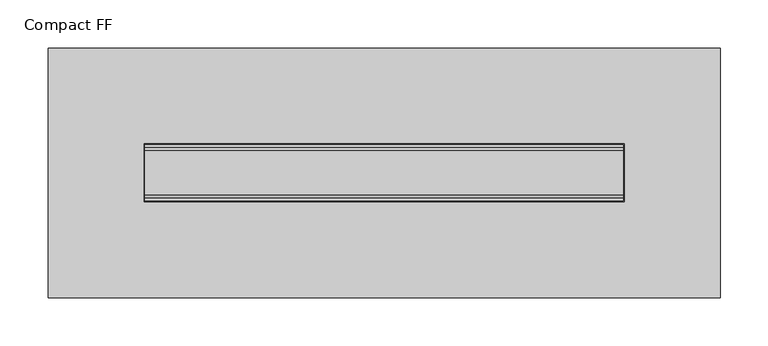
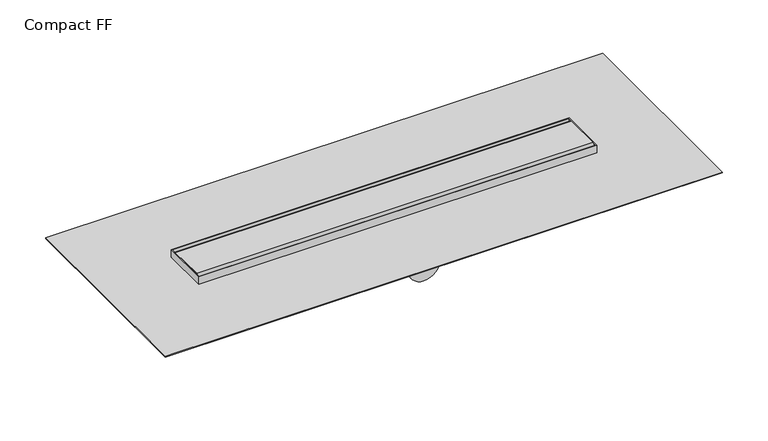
"""IFC4 building model written with IfcOpenShell, lengths in millimetres: sanitary terminal geometry, NLRS_PF_52_UN_Compact_Easydrain : Compact FF."""

from ifc_helpers import new_model, si_unit, point, frame, frame_2d, origin, place, context, project, spatial, polyline, circle_curve, trimmed, segment, composite_curve, outline, extrude, source, transform, mapped, element, save
from ifc_brep_helpers import plane_surface, cylinder_surface, advanced_brep


def compact_ff_39878ad4(model_context):
    return source(origin(), model_context, "Body", "SolidModel", [
        extrude(outline(composite_curve([segment(polyline([(-23.0, 0.0), (23.0, 0.0)]), True, "CONTINUOUS"), segment(trimmed(circle_curve(frame_2d((23.0, -3.0)), 3.0), [point((23.0, 0.0))], [point((26.0, -3.0))], False, "CARTESIAN"), True, "CONTINUOUS"), segment(polyline([(26.0, -3.0), (26.0, -12.0), (-26.0, -12.0), (-26.0, -3.0)]), True, "CONTINUOUS"), segment(trimmed(circle_curve(frame_2d((-23.0, -3.0)), 3.0), [point((-26.0, -3.0))], [point((-23.0, 0.0))], False, "CARTESIAN"), True, "CONTINUOUS")], self_intersect=False)), frame((-249.0, 0.0, 0.0), z_axis=(1.0, 0.0, 0.0), x_axis=(0.0, 1.0, 0.0)), (0.0, 0.0, 1.0), 498.0),
        extrude(outline(composite_curve([segment(trimmed(circle_curve(frame_2d((190.0, 0.0)), 20.0), [point((210.0, 0.0))], [point((170.0, 0.0))], False, "CARTESIAN"), True, "CONTINUOUS"), segment(trimmed(circle_curve(frame_2d((190.0, 0.0)), 20.0), [point((170.0, 0.0))], [point((210.0, 0.0))], False, "CARTESIAN"), True, "CONTINUOUS")], self_intersect=False)), frame((0.0, 0.0, -61.0), z_axis=(0.0, 0.0, 1.0), x_axis=(1.0, 0.0, 0.0)), (0.0, 0.0, 1.0), 43.0),
        extrude(outline(composite_curve([segment(trimmed(circle_curve(frame_2d((-190.0, 0.0)), 20.0), [point((-210.0, 0.0))], [point((-170.0, 0.0))], False, "CARTESIAN"), True, "CONTINUOUS"), segment(trimmed(circle_curve(frame_2d((-190.0, 0.0)), 20.0), [point((-170.0, 0.0))], [point((-210.0, 0.0))], False, "CARTESIAN"), True, "CONTINUOUS")], self_intersect=False)), frame((0.0, 0.0, -61.0), z_axis=(0.0, 0.0, 1.0), x_axis=(1.0, 0.0, 0.0)), (0.0, 0.0, 1.0), 43.0),
        extrude(outline(polyline([(350.0, 130.0), (350.0, -130.0), (-350.0, -130.0), (-350.0, 130.0), (350.0, 130.0)]), holes=[polyline([(250.0, 30.0), (-250.0, 30.0), (-250.0, -30.0), (250.0, -30.0), (250.0, 30.0)])]), frame((0.0, 0.0, -11.0), z_axis=(0.0, 0.0, 1.0), x_axis=(1.0, 0.0, 0.0)), (0.0, 0.0, 1.0), 1.0),
        advanced_brep(
        [(-250.0, -30.0, -18.0), (-110.0, -30.0, -20.0), (-110.0, -30.0, -61.0), (110.0, -30.0, -61.0), (110.0, -30.0, -20.0), (250.0, -30.0, -18.0), (250.0, -30.0, 0.0), (-250.0, -30.0, 0.0), (0.0, -30.0, -18.0), (0.0, -30.0, -58.0), (-250.0, 30.0, -18.0), (-250.0, 30.0, 0.0), (250.0, 30.0, 0.0), (250.0, 30.0, -18.0), (110.0, 30.0, -20.0), (110.0, 30.0, -61.0), (-110.0, 30.0, -61.0), (-110.0, 30.0, -20.0), (-249.0, 29.0, 0.0), (249.0, 29.0, 0.0), (249.0, -29.0, 0.0), (-249.0, -29.0, 0.0), (0.0, -87.0466767, -18.0), (0.0, -87.0466767, -58.0), (249.0, 29.0, -12.0), (-249.0, 29.0, -12.0), (-249.0, -29.0, -12.0), (249.0, -29.0, -12.0)],
        [
            (0, 1),
            (1, 2),
            (2, 3),
            (3, 4),
            (4, 5),
            (5, 6),
            (6, 7),
            (7, 0),
            (8, 9, circle_curve(frame((0.0, -30.0, -38.0), z_axis=(0.0, 1.0, 0.0), x_axis=(0.0, 0.0, -1.0)), 20.0)),
            (9, 8, circle_curve(frame((0.0, -30.0, -38.0), z_axis=(0.0, 1.0, 0.0), x_axis=(0.0, 0.0, -1.0)), 20.0)),
            (10, 11),
            (11, 12),
            (12, 13),
            (13, 14),
            (14, 15),
            (15, 16),
            (16, 17),
            (17, 10),
            (0, 10),
            (17, 1),
            (5, 13),
            (12, 6),
            (11, 7),
            (18, 19),
            (19, 20),
            (20, 21),
            (21, 18),
            (16, 2),
            (15, 3),
            (14, 4),
            (22, 23, circle_curve(frame((0.0, -87.0466767, -38.0), z_axis=(0.0, -1.0, 0.0), x_axis=(0.0, 0.0, -1.0)), 20.0)),
            (23, 22, circle_curve(frame((0.0, -87.0466767, -38.0), z_axis=(0.0, -1.0, 0.0), x_axis=(0.0, 0.0, -1.0)), 20.0)),
            (23, 9),
            (8, 22),
            (24, 25),
            (25, 26),
            (26, 27),
            (27, 24),
            (24, 19),
            (18, 25),
            (21, 26),
            (20, 27),
        ],
        [
            plane_surface(frame((-250.0, -30.0, -18.0), z_axis=(0.0, -1.0, 0.0), x_axis=(0.99989797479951, 0.0, -0.014284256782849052))),
            plane_surface(frame((-250.0, 30.0, -18.0), z_axis=(0.0, 1.0, 0.0), x_axis=(-0.99989797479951, 0.0, 0.014284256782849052))),
            plane_surface(frame((-250.0, -30.0, -18.0), z_axis=(-0.014284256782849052, 0.0, -0.99989797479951), x_axis=(0.0, 1.0, 0.0))),
            plane_surface(frame((250.0, -30.0, -18.0), z_axis=(1.0, 0.0, 0.0), x_axis=(0.0, 1.0, 0.0))),
            plane_surface(frame((250.0, -30.0, 0.0), z_axis=(0.0, 0.0, 1.0), x_axis=(0.0, 1.0, 0.0))),
            plane_surface(frame((-250.0, -30.0, 0.0), z_axis=(-1.0, 0.0, 0.0), x_axis=(0.0, 1.0, 0.0))),
            plane_surface(frame((-110.0, -30.0, -20.0), z_axis=(-1.0, 0.0, 0.0), x_axis=(0.0, 1.0, 0.0))),
            plane_surface(frame((-110.0, -30.0, -61.0), z_axis=(0.0, 0.0, -1.0), x_axis=(0.0, 1.0, 0.0))),
            plane_surface(frame((110.0, -30.0, -61.0), z_axis=(1.0, 0.0, 0.0), x_axis=(0.0, 1.0, 0.0))),
            plane_surface(frame((110.0, -30.0, -20.0), z_axis=(0.01428425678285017, 0.0, -0.99989797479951), x_axis=(0.0, 1.0, 0.0))),
            plane_surface(frame((0.0, -87.0466767, -38.0), z_axis=(0.0, -1.0, 0.0), x_axis=(1.0, 0.0, 0.0))),
            cylinder_surface(frame((0.0, 0.0, -38.0), z_axis=(0.0, 1.0, 0.0), x_axis=(0.0, 0.0, -1.0)), 20.0),
            plane_surface(frame((-249.0, 29.0, -12.0), z_axis=(0.0, 0.0, 1.0), x_axis=(1.0, 0.0, 0.0))),
            plane_surface(frame((249.0, 29.0, 0.0), z_axis=(0.0, -1.0, 0.0), x_axis=(0.0, 0.0, -1.0))),
            plane_surface(frame((-249.0, 29.0, 0.0), z_axis=(1.0, 0.0, 0.0), x_axis=(0.0, 0.0, -1.0))),
            plane_surface(frame((-249.0, -29.0, 0.0), z_axis=(0.0, 1.0, 0.0), x_axis=(0.0, 0.0, -1.0))),
            plane_surface(frame((249.0, -29.0, 0.0), z_axis=(-1.0, 0.0, 0.0), x_axis=(0.0, 0.0, -1.0))),
        ],
        [
            (0, [[1, 2, 3, 4, 5, 6, 7, 8], [9, 10]]),
            (1, [[11, 12, 13, 14, 15, 16, 17, 18]]),
            (2, [[-1, 19, -18, 20]]),
            (3, [[-6, 21, -13, 22]]),
            (4, [[-7, -22, -12, 23], [24, 25, 26, 27]]),
            (5, [[-8, -23, -11, -19]]),
            (6, [[-2, -20, -17, 28]]),
            (7, [[-3, -28, -16, 29]]),
            (8, [[-4, -29, -15, 30]]),
            (9, [[-5, -30, -14, -21]]),
            (10, [[31, 32]]),
            (11, [[-32, 33, -9, 34]]),
            (11, [[-31, -34, -10, -33]]),
            (12, [[35, 36, 37, 38]]),
            (13, [[-35, 39, -24, 40]]),
            (14, [[-36, -40, -27, 41]]),
            (15, [[-37, -41, -26, 42]]),
            (16, [[-38, -42, -25, -39]]),
        ],
    ),
    ])


if __name__ == "__main__":
    model = new_model("IFC4")
    model_context = context("Model", 3, world=origin())
    ifc_project = project(units=[si_unit("LENGTHUNIT", "METRE", prefix="MILLI")], contexts=[model_context])
    site = spatial("IfcSite", under=ifc_project)
    building = spatial("IfcBuilding", under=site)
    placement = place(None, origin())
    compact_ff_shape = compact_ff_39878ad4(model_context)
    element("IfcSanitaryTerminal", 1, ObjectType="NLRS_PF_52_UN_Compact_Easydrain : Compact FF", at=placement, inside=building, context=model_context, shape_type="MappedRepresentation", body=[
        mapped(compact_ff_shape, transform((0.0, 0.0, 0.0), x_axis=(1.0, 0.0, 0.0), y_axis=(0.0, 1.0, 0.0), z_axis=(0.0, 0.0, 1.0))),
    ])
    save(model, "model.ifc")
